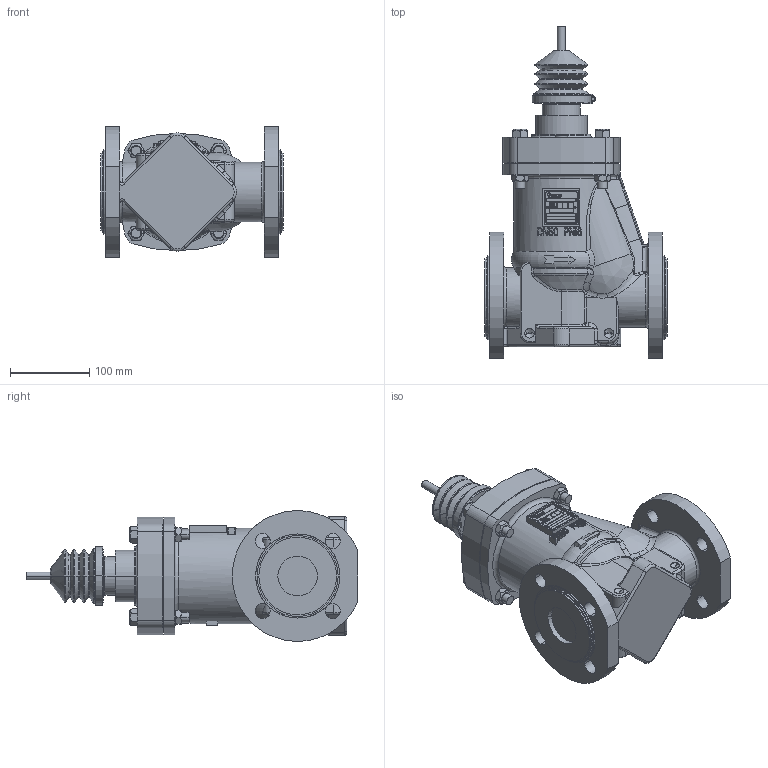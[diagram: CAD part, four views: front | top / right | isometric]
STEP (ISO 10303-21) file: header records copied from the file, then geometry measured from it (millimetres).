
FILE_DESCRIPTION((''),'2;1');
FILE_NAME('9560-00-5005_A_SW0001','2014-07-02T',('mclefen'),(''),'PRO/ENGINEER BY PARAMETRIC TECHNOLOGY CORPORATION, 2011040','PRO/ENGINEER BY PARAMETRIC TECHNOLOGY CORPORATION, 2011040','');
FILE_SCHEMA(('CONFIG_CONTROL_DESIGN'));
Products named in the file (1): 9560-00-5005_A_SW0001
Bounding box: 230 x 418.5 x 164.93 mm (x, y, z)
Volume: 4878912.6 mm3; surface area: 403788.1 mm2
Topology: 2 solids, 2 shells, 2750 faces, 7531 edges, 4922 vertices
Faces by surface type: plane 2265, cylinder 242, bspline 108, torus 75, cone 52, sphere 8
Entity records: 93795 total; most frequent: CARTESIAN_POINT 24731, ORIENTED_EDGE 15038, DIRECTION 13066, EDGE_CURVE 7519, VECTOR 6256, LINE 6256, VERTEX_POINT 4922, AXIS2_PLACEMENT_3D 3405
